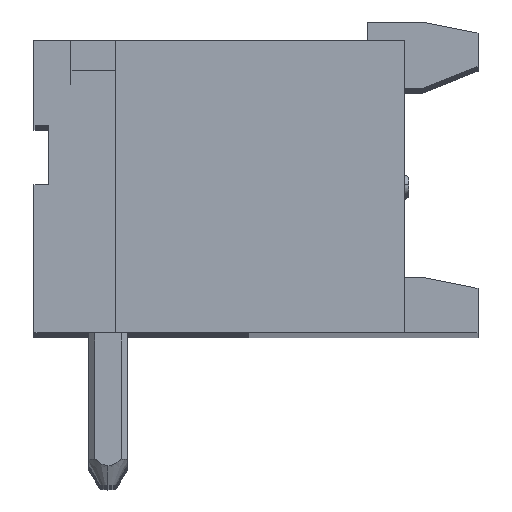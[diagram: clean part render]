
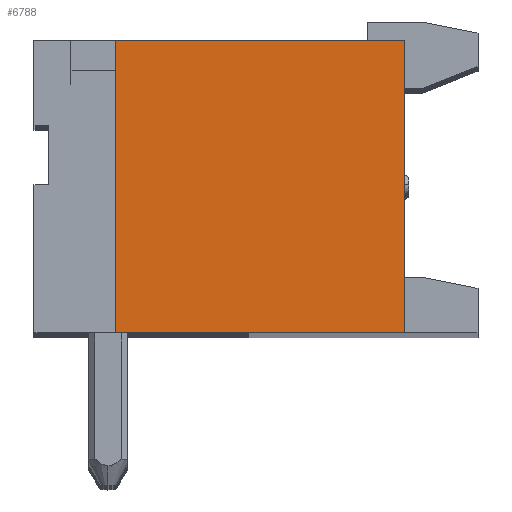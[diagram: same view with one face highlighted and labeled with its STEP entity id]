
A CAD part, top view. The second image highlights one B-rep face of the part: STEP entity #6788.
In plain terms, the highlighted planar face has unit normal (0, 0, 1).
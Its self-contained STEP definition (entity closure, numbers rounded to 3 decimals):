
#480 = VERTEX_POINT ( 'NONE', #8964 ) ;
#490 = EDGE_CURVE ( 'NONE', #491, #480, #9073, .T. ) ;
#491 = VERTEX_POINT ( 'NONE', #9069 ) ;
#669 = VERTEX_POINT ( 'NONE', #9358 ) ;
#729 = EDGE_CURVE ( 'NONE', #480, #669, #9490, .T. ) ;
#6788 = ADVANCED_FACE ( 'NONE', ( #37186 ), #37185, .T. ) ;
#6791 = EDGE_LOOP ( 'NONE', ( #6793, #6795, #6796, #6801 ) ) ;
#6793 = ORIENTED_EDGE ( 'NONE', *, *, #490, .T. ) ;
#6795 = ORIENTED_EDGE ( 'NONE', *, *, #729, .T. ) ;
#6796 = ORIENTED_EDGE ( 'NONE', *, *, #6797, .T. ) ;
#6797 = EDGE_CURVE ( 'NONE', #669, #6799, #37180, .T. ) ;
#6799 = VERTEX_POINT ( 'NONE', #37176 ) ;
#6801 = ORIENTED_EDGE ( 'NONE', *, *, #6804, .F. ) ;
#6804 = EDGE_CURVE ( 'NONE', #491, #6799, #37175, .T. ) ;
#8964 = CARTESIAN_POINT ( 'NONE',  ( -3.771, 5.825, 0. ) ) ;
#9069 = CARTESIAN_POINT ( 'NONE',  ( 4.029, 5.825, 0. ) ) ;
#9070 = DIRECTION ( 'NONE',  ( -1., 0., 0. ) ) ;
#9071 = VECTOR ( 'NONE', #9070, 1000. ) ;
#9072 = CARTESIAN_POINT ( 'NONE',  ( 0.129, 5.825, 0. ) ) ;
#9073 = LINE ( 'NONE', #9072, #9071 ) ;
#9358 = CARTESIAN_POINT ( 'NONE',  ( -3.771, -2.075, 0. ) ) ;
#9485 = DIRECTION ( 'NONE',  ( 0., -1., 0. ) ) ;
#9487 = VECTOR ( 'NONE', #9485, 1000. ) ;
#9488 = CARTESIAN_POINT ( 'NONE',  ( -3.771, 1.875, 0. ) ) ;
#9490 = LINE ( 'NONE', #9488, #9487 ) ;
#37172 = DIRECTION ( 'NONE',  ( 0., -1., 0. ) ) ;
#37173 = VECTOR ( 'NONE', #37172, 1000. ) ;
#37174 = CARTESIAN_POINT ( 'NONE',  ( 4.029, 1.875, 0. ) ) ;
#37175 = LINE ( 'NONE', #37174, #37173 ) ;
#37176 = CARTESIAN_POINT ( 'NONE',  ( 4.029, -2.075, 0. ) ) ;
#37177 = DIRECTION ( 'NONE',  ( 1., 0., 0. ) ) ;
#37178 = VECTOR ( 'NONE', #37177, 1000. ) ;
#37179 = CARTESIAN_POINT ( 'NONE',  ( -3.771, -2.075, 0. ) ) ;
#37180 = LINE ( 'NONE', #37179, #37178 ) ;
#37181 = DIRECTION ( 'NONE',  ( 1., 0., 0. ) ) ;
#37182 = DIRECTION ( 'NONE',  ( 0., 0., 1. ) ) ;
#37183 = CARTESIAN_POINT ( 'NONE',  ( -3.771, -2.075, 0. ) ) ;
#37184 = AXIS2_PLACEMENT_3D ( 'NONE', #37183, #37182, #37181 ) ;
#37185 = PLANE ( 'NONE',  #37184 ) ;
#37186 = FACE_OUTER_BOUND ( 'NONE', #6791, .T. ) ;
